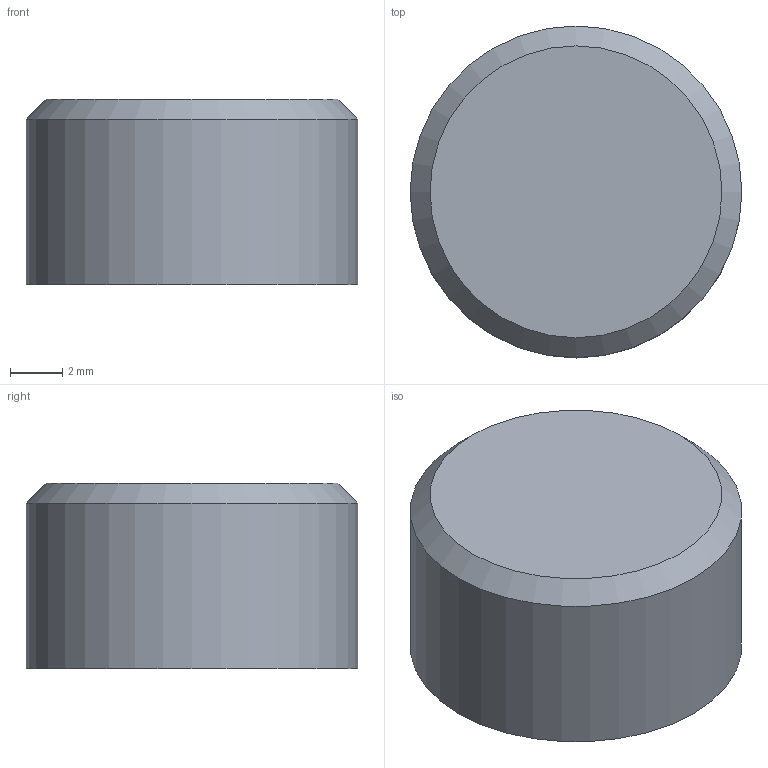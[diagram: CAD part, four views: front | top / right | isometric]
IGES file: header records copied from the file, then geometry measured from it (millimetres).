
Start section: Data from Parasolid IGES Translator 27.0.200, Copyright(c) 2006 Siemens PLM Software. All Rights Reserved.
Global section: file name: 6738fb53fe5dd95d9af75bc4.iges; native system: By Siemens PLM Incorporated; preprocessor: XPlus GENERIC/IGES 27.0.200; author: Noname; organization: Noname; date: 20241116.200643; units: metre
Bounding box: 12.7 x 12.7 x 7.11 mm (x, y, z)
Surface area: 649.7 mm2 (no closed solid volume)
Topology: 0 solids, 0 shells, 10 faces, 30 edges, 25 vertices
Faces by surface type: revolution 6, extrusion 4
